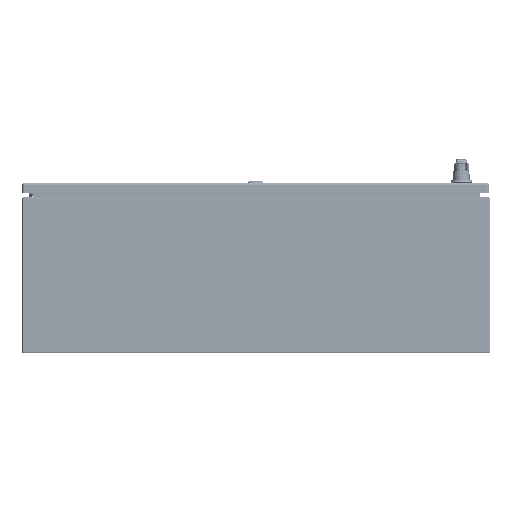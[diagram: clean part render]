
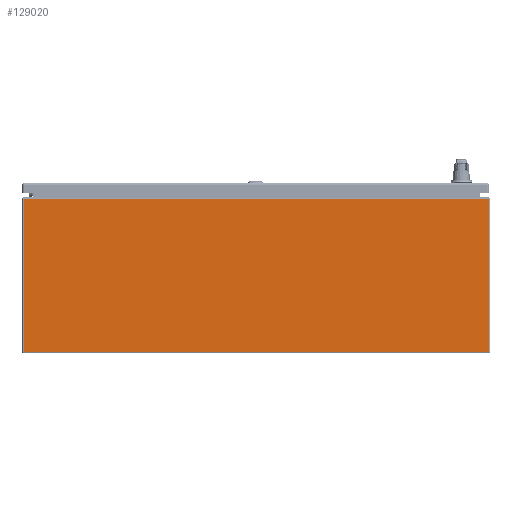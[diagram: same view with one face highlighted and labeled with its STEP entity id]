
A CAD part, front view. The second image highlights one B-rep face of the part: STEP entity #129020.
In plain terms, the highlighted planar face has unit normal (0, -1, 0).
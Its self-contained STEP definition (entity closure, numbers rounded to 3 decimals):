
#11107=LINE('',#182192,#19881);
#11110=LINE('',#182214,#19884);
#11111=LINE('',#182216,#19885);
#11112=LINE('',#182217,#19886);
#19881=VECTOR('',#150118,0.394);
#19884=VECTOR('',#150149,0.394);
#19885=VECTOR('',#150150,0.394);
#19886=VECTOR('',#150151,0.394);
#30557=FACE_OUTER_BOUND('',#38601,.T.);
#38601=EDGE_LOOP('',(#85846,#85847,#85848,#85849));
#52452=VERTEX_POINT('',#182181);
#52455=VERTEX_POINT('',#182191);
#52460=VERTEX_POINT('',#182213);
#52461=VERTEX_POINT('',#182215);
#65295=EDGE_CURVE('',#52452,#52455,#11107,.T.);
#65306=EDGE_CURVE('',#52460,#52452,#11110,.T.);
#65307=EDGE_CURVE('',#52460,#52461,#11111,.T.);
#65308=EDGE_CURVE('',#52455,#52461,#11112,.T.);
#85846=ORIENTED_EDGE('',*,*,#65295,.F.);
#85847=ORIENTED_EDGE('',*,*,#65306,.F.);
#85848=ORIENTED_EDGE('',*,*,#65307,.T.);
#85849=ORIENTED_EDGE('',*,*,#65308,.F.);
#126228=PLANE('',#138406);
#129020=ADVANCED_FACE('',(#30557),#126228,.T.);
#138406=AXIS2_PLACEMENT_3D('',#182212,#150147,#150148);
#150118=DIRECTION('',(1.,0.,0.));
#150147=DIRECTION('center_axis',(0.,-1.,0.));
#150148=DIRECTION('ref_axis',(-1.,0.,0.));
#150149=DIRECTION('',(0.,0.,1.));
#150150=DIRECTION('',(1.,0.,0.));
#150151=DIRECTION('',(0.,0.,-1.));
#182181=CARTESIAN_POINT('',(-17.901,-21.,11.901));
#182191=CARTESIAN_POINT('',(17.901,-21.,11.901));
#182192=CARTESIAN_POINT('',(0.025,-21.,11.901));
#182212=CARTESIAN_POINT('Origin',(18.,-21.,12.));
#182213=CARTESIAN_POINT('',(-17.901,-21.,0.099));
#182214=CARTESIAN_POINT('',(-17.901,-21.,6.));
#182215=CARTESIAN_POINT('',(17.901,-21.,0.099));
#182216=CARTESIAN_POINT('',(-8.951,-21.,0.099));
#182217=CARTESIAN_POINT('',(17.901,-21.,6.));
